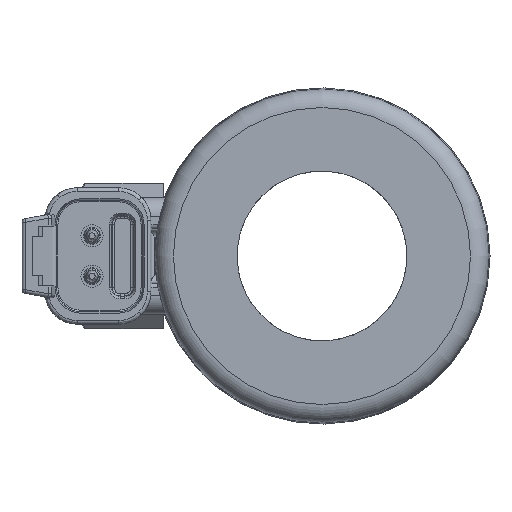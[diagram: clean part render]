
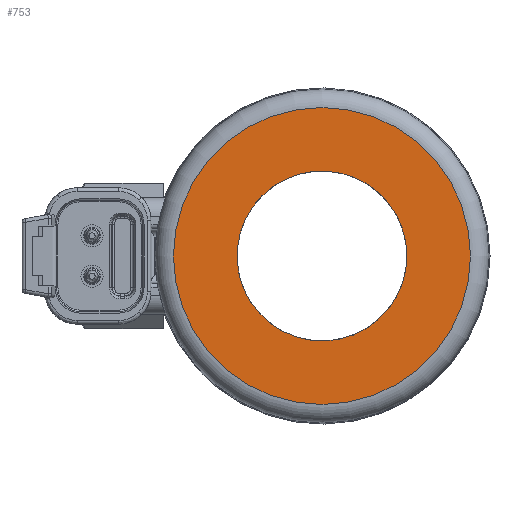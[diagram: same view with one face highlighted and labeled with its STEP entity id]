
A CAD part, left-side view. The second image highlights one B-rep face of the part: STEP entity #753.
In plain terms, the highlighted planar face has unit normal (-1, 0, 0).
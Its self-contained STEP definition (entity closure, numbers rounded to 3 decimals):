
#28 = ORIENTED_EDGE ( 'NONE', *, *, #947, .F. ) ;
#604 = VERTEX_POINT ( 'NONE', #11500 ) ;
#753 = ADVANCED_FACE ( 'NONE', ( #14376, #3129 ), #9710, .F. ) ;
#947 = EDGE_CURVE ( 'NONE', #604, #604, #12255, .T. ) ;
#1308 = CARTESIAN_POINT ( 'NONE',  ( -50.1, 0., 0. ) ) ;
#1635 = CARTESIAN_POINT ( 'NONE',  ( -50.1, 0., 0. ) ) ;
#1857 = CIRCLE ( 'NONE', #9984, 20.15 ) ;
#1913 = DIRECTION ( 'NONE',  ( 1., 0., 0. ) ) ;
#2448 = DIRECTION ( 'NONE',  ( 0., 1., 0. ) ) ;
#2761 = DIRECTION ( 'NONE',  ( 0., -1., 0. ) ) ;
#3129 = FACE_OUTER_BOUND ( 'NONE', #5822, .T. ) ;
#4444 = AXIS2_PLACEMENT_3D ( 'NONE', #1635, #9483, #2761 ) ;
#4686 = EDGE_LOOP ( 'NONE', ( #28 ) ) ;
#5361 = ORIENTED_EDGE ( 'NONE', *, *, #9508, .F. ) ;
#5822 = EDGE_LOOP ( 'NONE', ( #5361 ) ) ;
#8666 = CARTESIAN_POINT ( 'NONE',  ( -50.1, -16.888, 0. ) ) ;
#9165 = DIRECTION ( 'NONE',  ( 1., 0., 0. ) ) ;
#9483 = DIRECTION ( 'NONE',  ( -1., 0., 0. ) ) ;
#9508 = EDGE_CURVE ( 'NONE', #14171, #14171, #1857, .T. ) ;
#9710 = PLANE ( 'NONE',  #13761 ) ;
#9771 = DIRECTION ( 'NONE',  ( 0., 1., 0. ) ) ;
#9984 = AXIS2_PLACEMENT_3D ( 'NONE', #1308, #9165, #2448 ) ;
#11500 = CARTESIAN_POINT ( 'NONE',  ( -50.1, -11.525, 0. ) ) ;
#12255 = CIRCLE ( 'NONE', #4444, 11.525 ) ;
#12679 = CARTESIAN_POINT ( 'NONE',  ( -50.1, 20.15, 0. ) ) ;
#13761 = AXIS2_PLACEMENT_3D ( 'NONE', #8666, #1913, #9771 ) ;
#14171 = VERTEX_POINT ( 'NONE', #12679 ) ;
#14376 = FACE_BOUND ( 'NONE', #4686, .T. ) ;
